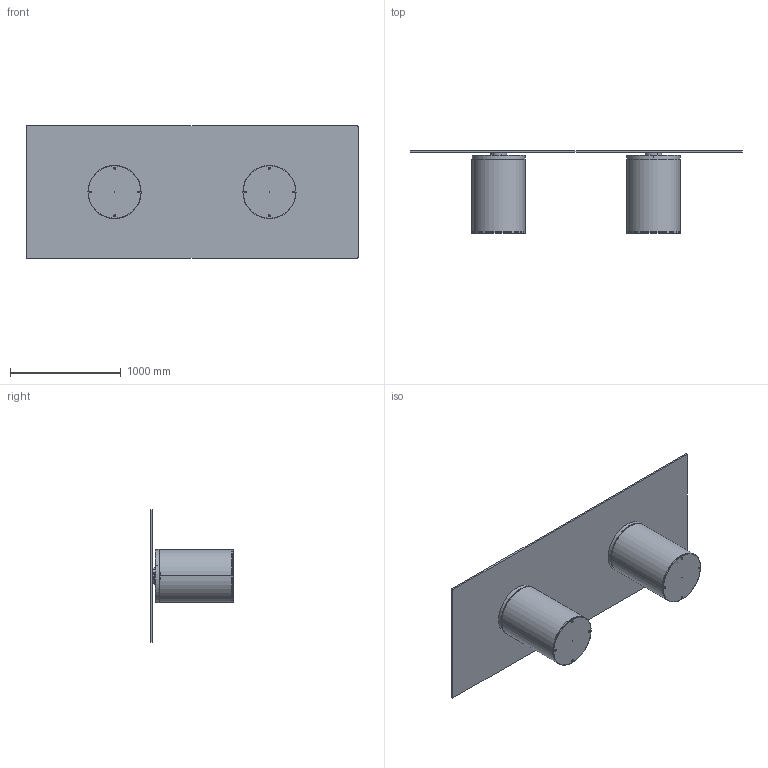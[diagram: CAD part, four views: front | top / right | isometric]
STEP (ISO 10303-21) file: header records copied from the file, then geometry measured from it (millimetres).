
FILE_DESCRIPTION (( 'STEP AP203' ), '1' );
FILE_NAME ('CI24G.STEP', '2024-08-08T06:51:50', ( '' ), ( '' ), 'SwSTEP 2.0', 'SolidWorks 2022', '' );
FILE_SCHEMA (( 'CONFIG_CONTROL_DESIGN' ));
Length unit declared in the file: millimetre
Products named in the file (12): PIASTRE DOPPIE D.150 PER TRASPARENTE MASCHIO_Ø150; CIB000000-00-CILINDRO BASE D.480mm_SENZA PIASTRA; M8xXXmm_hex_M8X20mm; Grano M6_M6x14; CIB000000BAR-00-BARRA PER CILINDRO TRASPARENTE_Default<A macchina>; CIB000000_02-01-ZAVORRA IN FERRO D.480mm; C2XCRXX-00-Piani Rettangolari Cristallo TRASPARENTE_C24 3000x1200; CIB000000_01-00-struttura cilindro D.480mm; CIB000000SPE-00-SPESSORE PER CILINDRO TRASPARENTE; C2XCRXX-00-Piani Rettangolari Cristallo Trasparente CON DISCHI_C24CR0CI PIANO CRISTALLO 300x120cm CILINDRO; CI24G; PIASTRE DOPPIE D.150 PER TRASPARENTE FEMMINA_Ø150
Assembly tree (24 placements, depth 3):
  CI24G
    C2XCRXX-00-Piani Rettangolari Cristallo Trasparente CON DISCHI_C24CR0CI PIANO CRISTALLO 300x120cm CILINDRO
      C2XCRXX-00-Piani Rettangolari Cristallo TRASPARENTE_C24 3000x1200
      PIASTRE DOPPIE D.150 PER TRASPARENTE MASCHIO_Ø150  x2
    CIB000000-00-CILINDRO BASE D.480mm_SENZA PIASTRA  x2
      CIB000000_01-00-struttura cilindro D.480mm
      CIB000000_02-01-ZAVORRA IN FERRO D.480mm
      M8xXXmm_hex_M8X20mm
    CIB000000SPE-00-SPESSORE PER CILINDRO TRASPARENTE  x2
    CIB000000BAR-00-BARRA PER CILINDRO TRASPARENTE_Default<A macchina>  x2
    PIASTRE DOPPIE D.150 PER TRASPARENTE FEMMINA_Ø150  x2
    Grano M6_M6x14  x6
Bounding box: 3000 x 747 x 1200 mm (x, y, z)
Volume: 76766804.7 mm3; surface area: 13851462.8 mm2
Topology: 37 solids, 37 shells, 956 faces, 2240 edges, 1350 vertices
Faces by surface type: cylinder 436, plane 334, cone 124, sphere 28, bspline 18, torus 16
Entity records: 13010 total; most frequent: CARTESIAN_POINT 4280, DIRECTION 1590, ORIENTED_EDGE 1400, EDGE_CURVE 700, AXIS2_PLACEMENT_3D 638, VERTEX_POINT 432, EDGE_LOOP 372, VECTOR 314
